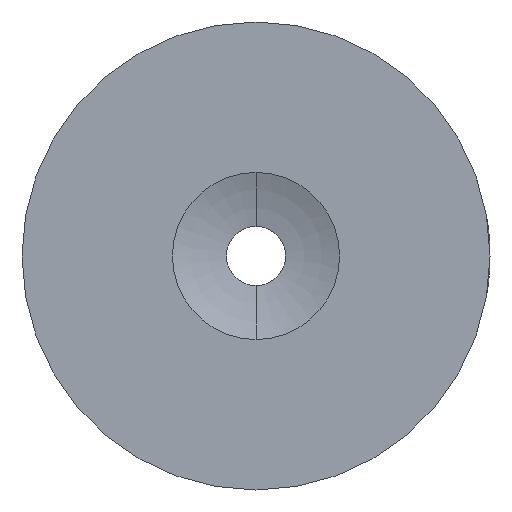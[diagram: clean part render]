
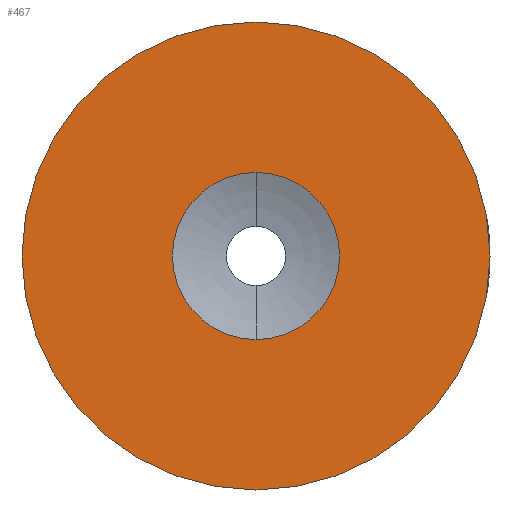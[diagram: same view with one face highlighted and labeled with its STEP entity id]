
A CAD part, left-side view. The second image highlights one B-rep face of the part: STEP entity #467.
In plain terms, the highlighted planar face has unit normal (-1, 0, 0).
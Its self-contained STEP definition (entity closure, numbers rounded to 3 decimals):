
#7 = CARTESIAN_POINT ( 'NONE',  ( 0., 0., 0. ) ) ;
#24 = EDGE_LOOP ( 'NONE', ( #528, #58 ) ) ;
#48 = FACE_BOUND ( 'NONE', #408, .T. ) ;
#50 = VERTEX_POINT ( 'NONE', #430 ) ;
#56 = AXIS2_PLACEMENT_3D ( 'NONE', #7, #349, #378 ) ;
#58 = ORIENTED_EDGE ( 'NONE', *, *, #540, .T. ) ;
#59 = CARTESIAN_POINT ( 'NONE',  ( 0., 0., -14. ) ) ;
#91 = AXIS2_PLACEMENT_3D ( 'NONE', #477, #195, #200 ) ;
#115 = FACE_OUTER_BOUND ( 'NONE', #24, .T. ) ;
#131 = CIRCLE ( 'NONE', #56, 5. ) ;
#132 = CARTESIAN_POINT ( 'NONE',  ( 0., 0., 5. ) ) ;
#135 = DIRECTION ( 'NONE',  ( 0., 0., 1. ) ) ;
#145 = AXIS2_PLACEMENT_3D ( 'NONE', #505, #531, #541 ) ;
#159 = CIRCLE ( 'NONE', #91, 5. ) ;
#178 = ORIENTED_EDGE ( 'NONE', *, *, #445, .F. ) ;
#195 = DIRECTION ( 'NONE',  ( -1., 0., 0. ) ) ;
#200 = DIRECTION ( 'NONE',  ( 0., 0., 1. ) ) ;
#257 = AXIS2_PLACEMENT_3D ( 'NONE', #375, #374, #135 ) ;
#274 = VERTEX_POINT ( 'NONE', #59 ) ;
#341 = AXIS2_PLACEMENT_3D ( 'NONE', #399, #434, #468 ) ;
#346 = CIRCLE ( 'NONE', #145, 14. ) ;
#349 = DIRECTION ( 'NONE',  ( -1., 0., 0. ) ) ;
#365 = EDGE_CURVE ( 'NONE', #368, #423, #131, .T. ) ;
#368 = VERTEX_POINT ( 'NONE', #547 ) ;
#374 = DIRECTION ( 'NONE',  ( -1., 0., 0. ) ) ;
#375 = CARTESIAN_POINT ( 'NONE',  ( 0., 0., 0. ) ) ;
#378 = DIRECTION ( 'NONE',  ( 0., 0., 1. ) ) ;
#399 = CARTESIAN_POINT ( 'NONE',  ( 0., 1.75, 0. ) ) ;
#408 = EDGE_LOOP ( 'NONE', ( #178, #510 ) ) ;
#423 = VERTEX_POINT ( 'NONE', #132 ) ;
#426 = PLANE ( 'NONE',  #341 ) ;
#430 = CARTESIAN_POINT ( 'NONE',  ( 0., 0., 14. ) ) ;
#434 = DIRECTION ( 'NONE',  ( 1., 0., 0. ) ) ;
#445 = EDGE_CURVE ( 'NONE', #423, #368, #159, .T. ) ;
#467 = ADVANCED_FACE ( 'NONE', ( #48, #115 ), #426, .F. ) ;
#468 = DIRECTION ( 'NONE',  ( 0., 0., -1. ) ) ;
#477 = CARTESIAN_POINT ( 'NONE',  ( 0., 0., 0. ) ) ;
#505 = CARTESIAN_POINT ( 'NONE',  ( 0., 0., 0. ) ) ;
#510 = ORIENTED_EDGE ( 'NONE', *, *, #365, .F. ) ;
#511 = CIRCLE ( 'NONE', #257, 14. ) ;
#518 = EDGE_CURVE ( 'NONE', #50, #274, #511, .T. ) ;
#528 = ORIENTED_EDGE ( 'NONE', *, *, #518, .T. ) ;
#531 = DIRECTION ( 'NONE',  ( -1., 0., 0. ) ) ;
#540 = EDGE_CURVE ( 'NONE', #274, #50, #346, .T. ) ;
#541 = DIRECTION ( 'NONE',  ( 0., 0., 1. ) ) ;
#547 = CARTESIAN_POINT ( 'NONE',  ( 0., 0., -5. ) ) ;
